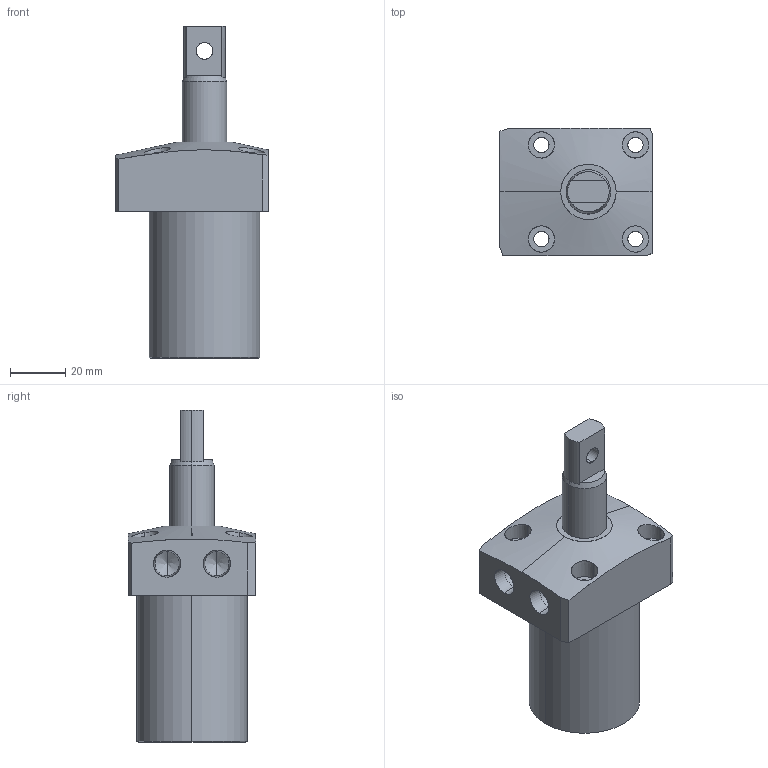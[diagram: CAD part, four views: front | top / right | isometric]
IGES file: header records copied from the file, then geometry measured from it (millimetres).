
Start section: SolidWorks IGES file using analytic representation for surfaces
Global section: file name: E:\ALL SSVT IGS MODEL\ALL-SWING-IGS\SWING-40\SWING-TOP-PYPE-LH-RH\SC02-401-TP-TOP.IGS; native system: SolidWorks 2019; preprocessor: SolidWorks 2019; author: SSVT; date: 210822.105725; units: millimetre
Bounding box: 55 x 46 x 120.03 mm (x, y, z)
Surface area: 25453.1 mm2 (no closed solid volume)
Topology: 0 solids, 0 shells, 73 faces, 1510 edges, 1506 vertices
Faces by surface type: revolution 49, bspline 24
